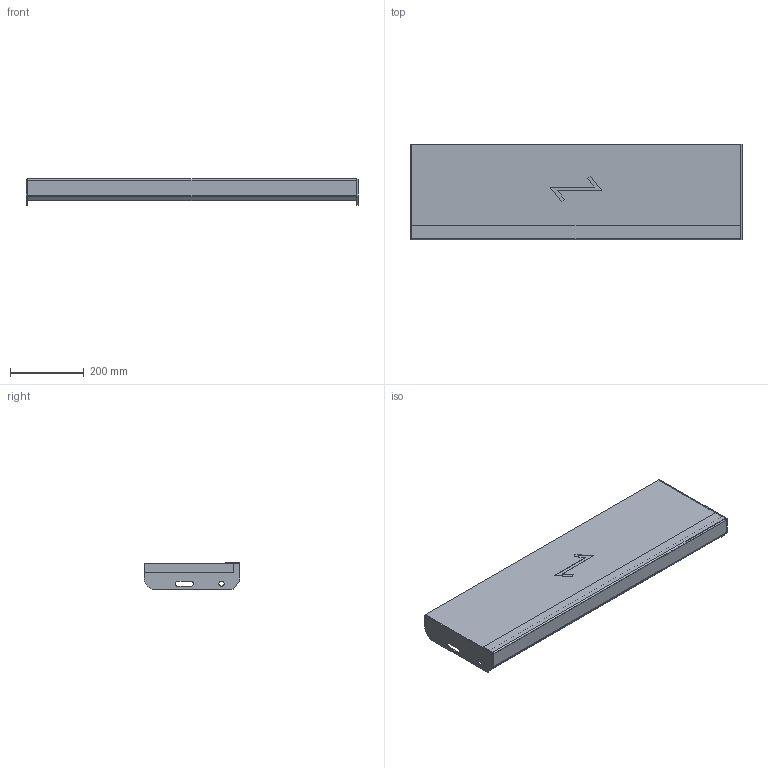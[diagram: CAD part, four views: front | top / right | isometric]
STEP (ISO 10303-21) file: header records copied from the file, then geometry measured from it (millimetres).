
FILE_DESCRIPTION (( 'STEP AP203' ), '1' );
FILE_NAME ('StegTH6-S-nya_steget-900x260.STEP', '2020-03-04T07:43:51', ( '' ), ( '' ), 'SwSTEP 2.0', 'SolidWorks 2019', '' );
FILE_SCHEMA (( 'CONFIG_CONTROL_DESIGN' ));
Length unit declared in the file: millimetre
Products named in the file (5): StegTH6-S-nya_steget-900x260; SW0000038702; SW0000039245; SW0000039517; SW0000038974
Assembly tree (5 placements, depth 3):
  StegTH6-S-nya_steget-900x260
    SW0000039517
      SW0000038974
      SW0000039245
      SW0000038702  x2
Bounding box: 900 x 260 x 72 mm (x, y, z)
Volume: 5706114.2 mm3; surface area: 743574.6 mm2
Topology: 4 solids, 4 shells, 67 faces, 158 edges, 100 vertices
Faces by surface type: plane 51, cylinder 16
Entity records: 2002 total; most frequent: DIRECTION 261, CARTESIAN_POINT 254, ORIENTED_EDGE 238, EDGE_CURVE 119, VECTOR 99, LINE 99, AXIS2_PLACEMENT_3D 81, VERTEX_POINT 74
